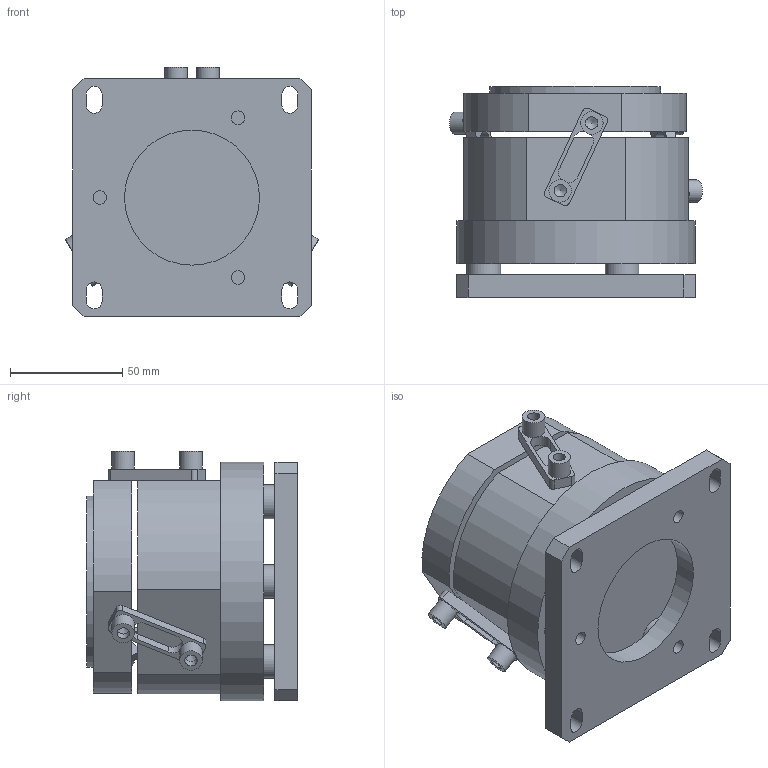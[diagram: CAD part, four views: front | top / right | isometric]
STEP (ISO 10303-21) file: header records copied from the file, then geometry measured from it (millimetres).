
FILE_DESCRIPTION(/* description */ (''),/* implementation_level */ '2;1');
FILE_NAME(/* name */ 'JMA-100_.stp',/* time_stamp */ '2022-04-19T11:17:30+08:00',/* author */ (''),/* organization */ (''),/* preprocessor_version */ 'ST-DEVELOPER v18.102',/* originating_system */ 'SIEMENS PLM Software NX 2019',/* authorisation */ '');
FILE_SCHEMA (('AUTOMOTIVE_DESIGN { 1 0 10303 214 3 1 1 1 }'));
Length unit declared in the file: millimetre
Products named in the file (1): JMA-100__stp_objects
Bounding box: 112.48 x 93.74 x 111 mm (x, y, z)
Volume: 669731.6 mm3; surface area: 104062.9 mm2
Topology: 16 solids, 16 shells, 140 faces, 318 edges, 212 vertices
Faces by surface type: plane 74, cylinder 60, cone 6
Full cylindrical faces by diameter (mm): 5.5 x6, 6 x9, 6.8 x1, 10 x6, 15 x3, 60 x1, 76 x1, 106 x1
Entity records: 3888 total; most frequent: DIRECTION 670, CARTESIAN_POINT 631, ORIENTED_EDGE 544, EDGE_CURVE 272, AXIS2_PLACEMENT_3D 261, EDGE_LOOP 210, VERTEX_POINT 206, LINE 148
